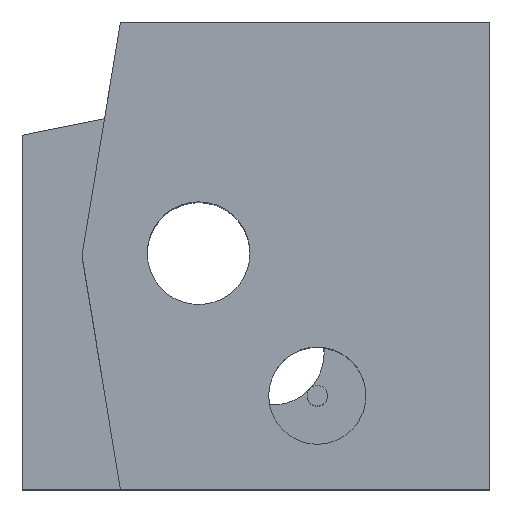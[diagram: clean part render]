
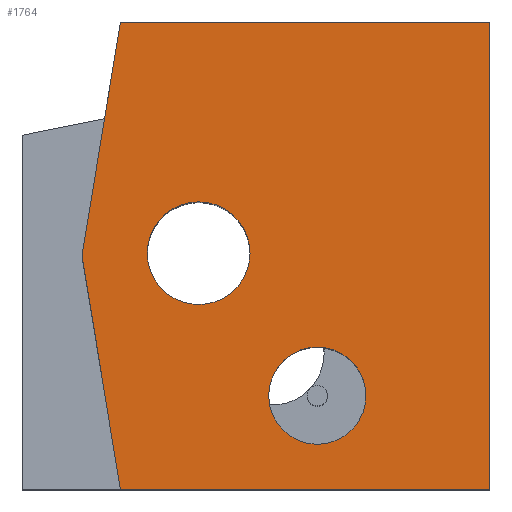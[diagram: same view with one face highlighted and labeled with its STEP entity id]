
A CAD part, top view. The second image highlights one B-rep face of the part: STEP entity #1764.
In plain terms, the highlighted planar face has unit normal (0, 0, 1).
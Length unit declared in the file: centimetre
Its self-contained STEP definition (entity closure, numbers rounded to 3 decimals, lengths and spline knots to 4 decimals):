
#1 = DIRECTION ( 'NONE',  ( 1., 0., 0. ) ) ;
#92 = VERTEX_POINT ( 'NONE', #682 ) ;
#128 = LINE ( 'NONE', #1446, #708 ) ;
#147 = CARTESIAN_POINT ( 'NONE',  ( 1000., 1000., 1000. ) ) ;
#175 = ORIENTED_EDGE ( 'NONE', *, *, #1378, .T. ) ;
#210 = ORIENTED_EDGE ( 'NONE', *, *, #305, .F. ) ;
#231 = DIRECTION ( 'NONE',  ( 0., 0., 1. ) ) ;
#235 = DIRECTION ( 'NONE',  ( 0., 1., 0. ) ) ;
#238 = EDGE_LOOP ( 'NONE', ( #1229, #210, #1396, #175, #1672 ) ) ;
#245 = DIRECTION ( 'NONE',  ( -0.162, 0.987, 0. ) ) ;
#264 = CIRCLE ( 'NONE', #1940, 109.9195 ) ;
#269 = DIRECTION ( 'NONE',  ( 0., 0., 1. ) ) ;
#305 = EDGE_CURVE ( 'NONE', #1375, #984, #128, .T. ) ;
#310 = ORIENTED_EDGE ( 'NONE', *, *, #1816, .F. ) ;
#330 = CIRCLE ( 'NONE', #1289, 104.0628 ) ;
#399 = CARTESIAN_POINT ( 'NONE',  ( 1000., 1000., 1000. ) ) ;
#400 = AXIS2_PLACEMENT_3D ( 'NONE', #1553, #231, #1215 ) ;
#407 = LINE ( 'NONE', #551, #1322 ) ;
#421 = AXIS2_PLACEMENT_3D ( 'NONE', #2093, #609, #1783 ) ;
#434 = VECTOR ( 'NONE', #1, 100. ) ;
#469 = EDGE_LOOP ( 'NONE', ( #855, #703 ) ) ;
#523 = FACE_OUTER_BOUND ( 'NONE', #238, .T. ) ;
#524 = VERTEX_POINT ( 'NONE', #1652 ) ;
#537 = VERTEX_POINT ( 'NONE', #1454 ) ;
#551 = CARTESIAN_POINT ( 'NONE',  ( 209.7596, 1000., 1000. ) ) ;
#572 = EDGE_CURVE ( 'NONE', #1375, #1946, #1476, .T. ) ;
#609 = DIRECTION ( 'NONE',  ( 0., 0., -1. ) ) ;
#636 = CARTESIAN_POINT ( 'NONE',  ( 0., 0., 1000. ) ) ;
#649 = VERTEX_POINT ( 'NONE', #147 ) ;
#657 = EDGE_CURVE ( 'NONE', #1733, #524, #264, .T. ) ;
#669 = AXIS2_PLACEMENT_3D ( 'NONE', #1678, #822, #1481 ) ;
#682 = CARTESIAN_POINT ( 'NONE',  ( 209.7596, 1000., 1000. ) ) ;
#703 = ORIENTED_EDGE ( 'NONE', *, *, #2094, .T. ) ;
#708 = VECTOR ( 'NONE', #245, 100. ) ;
#773 = VECTOR ( 'NONE', #1737, 100. ) ;
#822 = DIRECTION ( 'NONE',  ( 0., 0., 1. ) ) ;
#855 = ORIENTED_EDGE ( 'NONE', *, *, #657, .T. ) ;
#859 = CARTESIAN_POINT ( 'NONE',  ( 1000., 0., 1000. ) ) ;
#881 = DIRECTION ( 'NONE',  ( 0.162, 0.987, 0. ) ) ;
#905 = VECTOR ( 'NONE', #235, 100. ) ;
#930 = CARTESIAN_POINT ( 'NONE',  ( 0., 1000., 1000. ) ) ;
#939 = DIRECTION ( 'NONE',  ( 1., 0., 0. ) ) ;
#984 = VERTEX_POINT ( 'NONE', #1195 ) ;
#1065 = CIRCLE ( 'NONE', #421, 109.9195 ) ;
#1084 = EDGE_CURVE ( 'NONE', #649, #92, #1376, .T. ) ;
#1150 = DIRECTION ( 'NONE',  ( -1., 0., 0. ) ) ;
#1165 = PLANE ( 'NONE',  #669 ) ;
#1174 = FACE_BOUND ( 'NONE', #1362, .T. ) ;
#1195 = CARTESIAN_POINT ( 'NONE',  ( 127.6871, 500., 1000. ) ) ;
#1215 = DIRECTION ( 'NONE',  ( 1., 0., 0. ) ) ;
#1229 = ORIENTED_EDGE ( 'NONE', *, *, #1838, .F. ) ;
#1289 = AXIS2_PLACEMENT_3D ( 'NONE', #1747, #269, #939 ) ;
#1322 = VECTOR ( 'NONE', #881, 100. ) ;
#1362 = EDGE_LOOP ( 'NONE', ( #310, #1720 ) ) ;
#1375 = VERTEX_POINT ( 'NONE', #1701 ) ;
#1376 = LINE ( 'NONE', #930, #773 ) ;
#1378 = EDGE_CURVE ( 'NONE', #1946, #649, #2020, .T. ) ;
#1396 = ORIENTED_EDGE ( 'NONE', *, *, #572, .T. ) ;
#1446 = CARTESIAN_POINT ( 'NONE',  ( 127.6871, 500., 1000. ) ) ;
#1454 = CARTESIAN_POINT ( 'NONE',  ( 527.1487, 200.3535, 1000. ) ) ;
#1476 = LINE ( 'NONE', #636, #434 ) ;
#1481 = DIRECTION ( 'NONE',  ( 1., 0., 0. ) ) ;
#1553 = CARTESIAN_POINT ( 'NONE',  ( 631.2115, 200.3535, 1000. ) ) ;
#1554 = VERTEX_POINT ( 'NONE', #1625 ) ;
#1590 = EDGE_CURVE ( 'NONE', #537, #1554, #330, .T. ) ;
#1625 = CARTESIAN_POINT ( 'NONE',  ( 735.2743, 200.3535, 1000. ) ) ;
#1647 = FACE_BOUND ( 'NONE', #469, .T. ) ;
#1652 = CARTESIAN_POINT ( 'NONE',  ( 487.2298, 505.2679, 1000. ) ) ;
#1672 = ORIENTED_EDGE ( 'NONE', *, *, #1084, .T. ) ;
#1678 = CARTESIAN_POINT ( 'NONE',  ( 0., 0., 1000. ) ) ;
#1701 = CARTESIAN_POINT ( 'NONE',  ( 209.7596, 0., 1000. ) ) ;
#1720 = ORIENTED_EDGE ( 'NONE', *, *, #1590, .F. ) ;
#1733 = VERTEX_POINT ( 'NONE', #1834 ) ;
#1737 = DIRECTION ( 'NONE',  ( -1., 0., 0. ) ) ;
#1747 = CARTESIAN_POINT ( 'NONE',  ( 631.2115, 200.3535, 1000. ) ) ;
#1764 = ADVANCED_FACE ( 'NONE', ( #1647, #523, #1174 ), #1165, .T. ) ;
#1781 = CARTESIAN_POINT ( 'NONE',  ( 377.3103, 505.2679, 1000. ) ) ;
#1783 = DIRECTION ( 'NONE',  ( -1., 0., 0. ) ) ;
#1816 = EDGE_CURVE ( 'NONE', #1554, #537, #1871, .T. ) ;
#1834 = CARTESIAN_POINT ( 'NONE',  ( 267.3908, 505.2679, 1000. ) ) ;
#1838 = EDGE_CURVE ( 'NONE', #984, #92, #407, .T. ) ;
#1871 = CIRCLE ( 'NONE', #400, 104.0628 ) ;
#1940 = AXIS2_PLACEMENT_3D ( 'NONE', #1781, #1944, #1150 ) ;
#1944 = DIRECTION ( 'NONE',  ( 0., 0., -1. ) ) ;
#1946 = VERTEX_POINT ( 'NONE', #859 ) ;
#2020 = LINE ( 'NONE', #399, #905 ) ;
#2093 = CARTESIAN_POINT ( 'NONE',  ( 377.3103, 505.2679, 1000. ) ) ;
#2094 = EDGE_CURVE ( 'NONE', #524, #1733, #1065, .T. ) ;
